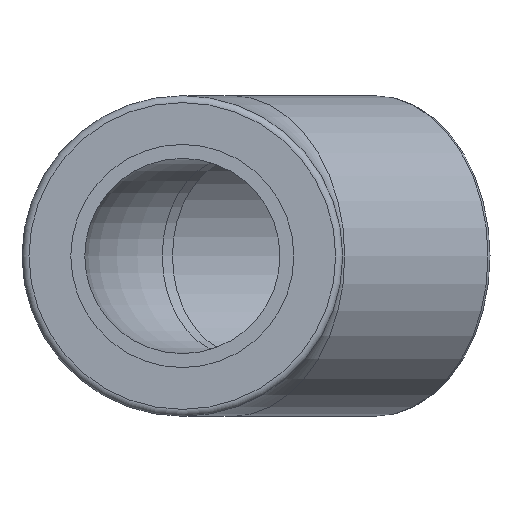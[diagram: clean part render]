
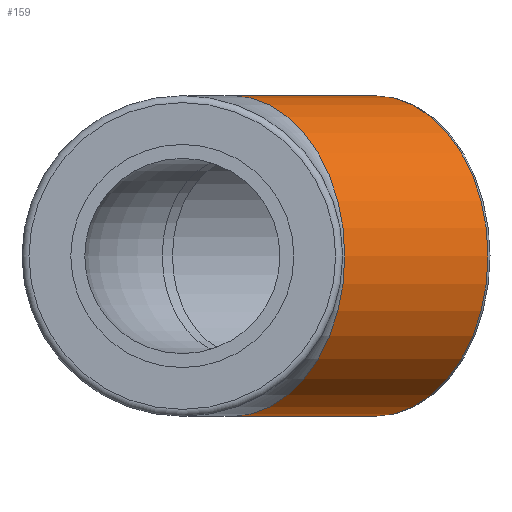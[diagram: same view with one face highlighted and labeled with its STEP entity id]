
A CAD part, front view. The second image highlights one B-rep face of the part: STEP entity #159.
In plain terms, the highlighted cylindrical face has radius 11.5 mm (diameter 23 mm), a full revolution.
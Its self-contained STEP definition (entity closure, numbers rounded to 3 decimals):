
#20=CYLINDRICAL_SURFACE('',#181,11.5);
#29=FACE_BOUND('',#62,.T.);
#43=FACE_OUTER_BOUND('',#61,.T.);
#61=EDGE_LOOP('',(#131));
#62=EDGE_LOOP('',(#132));
#85=CIRCLE('',#179,11.5);
#87=CIRCLE('',#182,11.5);
#99=VERTEX_POINT('',#270);
#101=VERTEX_POINT('',#275);
#113=EDGE_CURVE('',#99,#99,#85,.T.);
#115=EDGE_CURVE('',#101,#101,#87,.T.);
#131=ORIENTED_EDGE('',*,*,#115,.T.);
#132=ORIENTED_EDGE('',*,*,#113,.F.);
#159=ADVANCED_FACE('',(#43,#29),#20,.T.);
#179=AXIS2_PLACEMENT_3D('',#271,#217,#218);
#181=AXIS2_PLACEMENT_3D('',#274,#221,#222);
#182=AXIS2_PLACEMENT_3D('',#276,#223,#224);
#217=DIRECTION('center_axis',(0.707,0.707,0.));
#218=DIRECTION('ref_axis',(0.707,-0.707,0.));
#221=DIRECTION('center_axis',(0.707,0.707,0.));
#222=DIRECTION('ref_axis',(0.707,-0.707,0.));
#223=DIRECTION('center_axis',(0.707,0.707,0.));
#224=DIRECTION('ref_axis',(0.707,-0.707,0.));
#270=CARTESIAN_POINT('',(5.657,41.92,0.));
#271=CARTESIAN_POINT('Origin',(13.789,33.789,0.));
#274=CARTESIAN_POINT('Origin',(3.515,23.515,0.));
#275=CARTESIAN_POINT('',(-4.617,31.646,0.));
#276=CARTESIAN_POINT('Origin',(3.515,23.515,0.));
